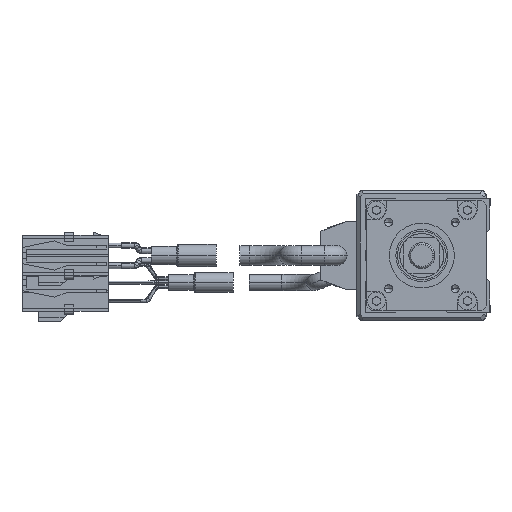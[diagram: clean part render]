
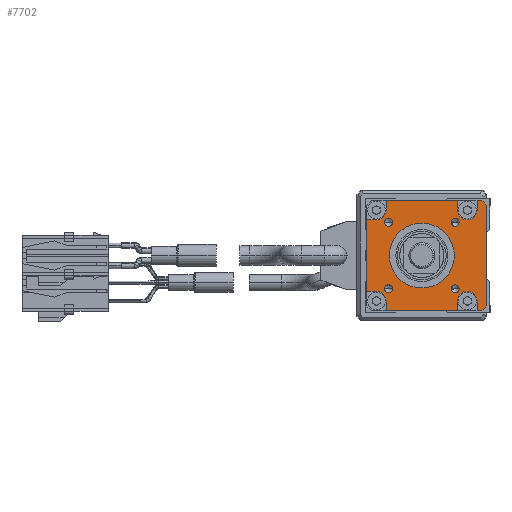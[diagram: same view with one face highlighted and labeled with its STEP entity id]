
A CAD part, left-side view. The second image highlights one B-rep face of the part: STEP entity #7702.
In plain terms, the highlighted planar face has unit normal (-1, 0, 0).
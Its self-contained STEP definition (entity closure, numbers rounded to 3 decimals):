
#1290=DIRECTION('',(0.,1.,0.));
#1291=VECTOR('',#1290,22.);
#1292=CARTESIAN_POINT('',(-277.5,10.,-17.));
#1293=LINE('',#1292,#1291);
#1298=DIRECTION('',(0.,1.,0.));
#1299=VECTOR('',#1298,1.5);
#1300=CARTESIAN_POINT('',(-277.5,2.5,-17.));
#1301=LINE('',#1300,#1299);
#1322=DIRECTION('',(0.,0.,1.));
#1323=VECTOR('',#1322,22.);
#1324=CARTESIAN_POINT('',(-277.5,38.,-11.));
#1325=LINE('',#1324,#1323);
#1346=DIRECTION('',(0.,-1.,0.));
#1347=VECTOR('',#1346,1.5);
#1348=CARTESIAN_POINT('',(-277.5,4.,17.));
#1349=LINE('',#1348,#1347);
#1350=DIRECTION('',(0.,-1.,0.));
#1351=VECTOR('',#1350,22.);
#1352=CARTESIAN_POINT('',(-277.5,32.,17.));
#1353=LINE('',#1352,#1351);
#1366=DIRECTION('',(0.,0.,-1.));
#1367=VECTOR('',#1366,31.);
#1368=CARTESIAN_POINT('',(-277.5,1.,15.5));
#1369=LINE('',#1368,#1367);
#1914=DIRECTION('',(0.,0.707,-0.707));
#1915=VECTOR('',#1914,2.121);
#1916=CARTESIAN_POINT('',(-277.5,1.,-15.5));
#1917=LINE('',#1916,#1915);
#1918=CARTESIAN_POINT('',(-277.5,7.,-14.));
#1919=DIRECTION('',(-1.,0.,0.));
#1920=DIRECTION('',(0.,-1.,0.));
#1921=AXIS2_PLACEMENT_3D('',#1918,#1919,#1920);
#1923=CARTESIAN_POINT('',(-277.5,35.,-14.));
#1924=DIRECTION('',(-1.,0.,0.));
#1925=DIRECTION('',(0.,-1.,0.));
#1926=AXIS2_PLACEMENT_3D('',#1923,#1924,#1925);
#1928=CARTESIAN_POINT('',(-277.5,35.,14.));
#1929=DIRECTION('',(-1.,0.,0.));
#1930=DIRECTION('',(0.,0.,-1.));
#1931=AXIS2_PLACEMENT_3D('',#1928,#1929,#1930);
#1933=CARTESIAN_POINT('',(-277.5,7.,14.));
#1934=DIRECTION('',(-1.,0.,0.));
#1935=DIRECTION('',(0.,1.,0.));
#1936=AXIS2_PLACEMENT_3D('',#1933,#1934,#1935);
#1938=DIRECTION('',(0.,-0.707,-0.707));
#1939=VECTOR('',#1938,2.121);
#1940=CARTESIAN_POINT('',(-277.5,2.5,17.));
#1941=LINE('',#1940,#1939);
#1942=CARTESIAN_POINT('',(-277.5,31.253,-10.253));
#1943=DIRECTION('',(-1.,0.,0.));
#1944=DIRECTION('',(0.,1.,0.));
#1945=AXIS2_PLACEMENT_3D('',#1942,#1943,#1944);
#1947=CARTESIAN_POINT('',(-277.5,31.253,-10.253));
#1948=DIRECTION('',(-1.,0.,0.));
#1949=DIRECTION('',(0.,-1.,0.));
#1950=AXIS2_PLACEMENT_3D('',#1947,#1948,#1949);
#1952=CARTESIAN_POINT('',(-277.5,10.747,-10.253));
#1953=DIRECTION('',(-1.,0.,0.));
#1954=DIRECTION('',(0.,1.,0.));
#1955=AXIS2_PLACEMENT_3D('',#1952,#1953,#1954);
#1957=CARTESIAN_POINT('',(-277.5,10.747,-10.253));
#1958=DIRECTION('',(-1.,0.,0.));
#1959=DIRECTION('',(0.,-1.,0.));
#1960=AXIS2_PLACEMENT_3D('',#1957,#1958,#1959);
#1962=CARTESIAN_POINT('',(-277.5,10.747,10.253));
#1963=DIRECTION('',(-1.,0.,0.));
#1964=DIRECTION('',(0.,1.,0.));
#1965=AXIS2_PLACEMENT_3D('',#1962,#1963,#1964);
#1967=CARTESIAN_POINT('',(-277.5,10.747,10.253));
#1968=DIRECTION('',(-1.,0.,0.));
#1969=DIRECTION('',(0.,-1.,0.));
#1970=AXIS2_PLACEMENT_3D('',#1967,#1968,#1969);
#1972=CARTESIAN_POINT('',(-277.5,31.253,10.253));
#1973=DIRECTION('',(-1.,0.,0.));
#1974=DIRECTION('',(0.,1.,0.));
#1975=AXIS2_PLACEMENT_3D('',#1972,#1973,#1974);
#1977=CARTESIAN_POINT('',(-277.5,31.253,10.253));
#1978=DIRECTION('',(-1.,0.,0.));
#1979=DIRECTION('',(0.,-1.,0.));
#1980=AXIS2_PLACEMENT_3D('',#1977,#1978,#1979);
#1982=CARTESIAN_POINT('',(-277.5,21.,0.));
#1983=DIRECTION('',(-1.,0.,0.));
#1984=DIRECTION('',(0.,-1.,0.));
#1985=AXIS2_PLACEMENT_3D('',#1982,#1983,#1984);
#1987=CARTESIAN_POINT('',(-277.5,21.,0.));
#1988=DIRECTION('',(-1.,0.,0.));
#1989=DIRECTION('',(0.,1.,0.));
#1990=AXIS2_PLACEMENT_3D('',#1987,#1988,#1989);
#1992=DIRECTION('',(0.,0.,-1.));
#1993=VECTOR('',#1992,3.);
#1994=CARTESIAN_POINT('',(-277.5,4.,-14.));
#1995=LINE('',#1994,#1993);
#2019=DIRECTION('',(0.,0.,1.));
#2020=VECTOR('',#2019,3.);
#2021=CARTESIAN_POINT('',(-277.5,10.,-17.));
#2022=LINE('',#2021,#2020);
#2129=DIRECTION('',(0.,0.,-1.));
#2130=VECTOR('',#2129,3.);
#2131=CARTESIAN_POINT('',(-277.5,32.,-14.));
#2132=LINE('',#2131,#2130);
#2160=DIRECTION('',(0.,-1.,0.));
#2161=VECTOR('',#2160,3.);
#2162=CARTESIAN_POINT('',(-277.5,38.,-11.));
#2163=LINE('',#2162,#2161);
#2270=DIRECTION('',(0.,1.,0.));
#2271=VECTOR('',#2270,3.);
#2272=CARTESIAN_POINT('',(-277.5,35.,11.));
#2273=LINE('',#2272,#2271);
#2305=DIRECTION('',(0.,0.,-1.));
#2306=VECTOR('',#2305,3.);
#2307=CARTESIAN_POINT('',(-277.5,32.,17.));
#2308=LINE('',#2307,#2306);
#2415=DIRECTION('',(0.,0.,1.));
#2416=VECTOR('',#2415,3.);
#2417=CARTESIAN_POINT('',(-277.5,10.,14.));
#2418=LINE('',#2417,#2416);
#2446=DIRECTION('',(0.,0.,-1.));
#2447=VECTOR('',#2446,3.);
#2448=CARTESIAN_POINT('',(-277.5,4.,17.));
#2449=LINE('',#2448,#2447);
#4178=CARTESIAN_POINT('',(-277.5,11.,0.));
#4179=CARTESIAN_POINT('',(-277.5,31.,0.));
#4180=VERTEX_POINT('',#4178);
#4181=VERTEX_POINT('',#4179);
#4182=CARTESIAN_POINT('',(-277.5,1.,-15.5));
#4183=CARTESIAN_POINT('',(-277.5,2.5,-17.));
#4184=VERTEX_POINT('',#4182);
#4185=VERTEX_POINT('',#4183);
#4186=CARTESIAN_POINT('',(-277.5,1.,15.5));
#4187=VERTEX_POINT('',#4186);
#4188=CARTESIAN_POINT('',(-277.5,2.5,17.));
#4189=VERTEX_POINT('',#4188);
#4190=CARTESIAN_POINT('',(-277.5,4.,17.));
#4191=VERTEX_POINT('',#4190);
#4192=CARTESIAN_POINT('',(-277.5,4.,14.));
#4193=VERTEX_POINT('',#4192);
#4194=CARTESIAN_POINT('',(-277.5,10.,14.));
#4195=VERTEX_POINT('',#4194);
#4196=CARTESIAN_POINT('',(-277.5,10.,17.));
#4197=VERTEX_POINT('',#4196);
#4198=CARTESIAN_POINT('',(-277.5,32.,17.));
#4199=VERTEX_POINT('',#4198);
#4200=CARTESIAN_POINT('',(-277.5,32.,14.));
#4201=VERTEX_POINT('',#4200);
#4202=CARTESIAN_POINT('',(-277.5,35.,11.));
#4203=VERTEX_POINT('',#4202);
#4204=CARTESIAN_POINT('',(-277.5,38.,11.));
#4205=VERTEX_POINT('',#4204);
#4206=CARTESIAN_POINT('',(-277.5,38.,-11.));
#4207=VERTEX_POINT('',#4206);
#4208=CARTESIAN_POINT('',(-277.5,35.,-11.));
#4209=VERTEX_POINT('',#4208);
#4210=CARTESIAN_POINT('',(-277.5,32.,-14.));
#4211=VERTEX_POINT('',#4210);
#4212=CARTESIAN_POINT('',(-277.5,32.,-17.));
#4213=VERTEX_POINT('',#4212);
#4214=CARTESIAN_POINT('',(-277.5,10.,-17.));
#4215=VERTEX_POINT('',#4214);
#4216=CARTESIAN_POINT('',(-277.5,10.,-14.));
#4217=VERTEX_POINT('',#4216);
#4218=CARTESIAN_POINT('',(-277.5,4.,-14.));
#4219=VERTEX_POINT('',#4218);
#4220=CARTESIAN_POINT('',(-277.5,4.,-17.));
#4221=VERTEX_POINT('',#4220);
#4222=CARTESIAN_POINT('',(-277.5,32.503,-10.253));
#4223=CARTESIAN_POINT('',(-277.5,30.003,-10.253));
#4224=VERTEX_POINT('',#4222);
#4225=VERTEX_POINT('',#4223);
#4226=CARTESIAN_POINT('',(-277.5,11.997,-10.253));
#4227=CARTESIAN_POINT('',(-277.5,9.497,-10.253));
#4228=VERTEX_POINT('',#4226);
#4229=VERTEX_POINT('',#4227);
#4230=CARTESIAN_POINT('',(-277.5,11.997,10.253));
#4231=CARTESIAN_POINT('',(-277.5,9.497,10.253));
#4232=VERTEX_POINT('',#4230);
#4233=VERTEX_POINT('',#4231);
#4234=CARTESIAN_POINT('',(-277.5,32.503,10.253));
#4235=CARTESIAN_POINT('',(-277.5,30.003,10.253));
#4236=VERTEX_POINT('',#4234);
#4237=VERTEX_POINT('',#4235);
#7633=CARTESIAN_POINT('',(-277.5,19.5,0.));
#7634=DIRECTION('',(1.,0.,0.));
#7635=DIRECTION('',(0.,0.,-1.));
#7636=AXIS2_PLACEMENT_3D('',#7633,#7634,#7635);
#7637=PLANE('',#7636);
#7638=ORIENTED_EDGE('',*,*,#6630,.T.);
#7639=ORIENTED_EDGE('',*,*,#6659,.T.);
#7641=ORIENTED_EDGE('',*,*,#7640,.F.);
#7643=ORIENTED_EDGE('',*,*,#7642,.T.);
#7645=ORIENTED_EDGE('',*,*,#7644,.F.);
#7646=ORIENTED_EDGE('',*,*,#6651,.T.);
#7648=ORIENTED_EDGE('',*,*,#7647,.F.);
#7650=ORIENTED_EDGE('',*,*,#7649,.T.);
#7652=ORIENTED_EDGE('',*,*,#7651,.F.);
#7653=ORIENTED_EDGE('',*,*,#6693,.T.);
#7655=ORIENTED_EDGE('',*,*,#7654,.F.);
#7657=ORIENTED_EDGE('',*,*,#7656,.T.);
#7659=ORIENTED_EDGE('',*,*,#7658,.F.);
#7660=ORIENTED_EDGE('',*,*,#6735,.T.);
#7662=ORIENTED_EDGE('',*,*,#7661,.F.);
#7664=ORIENTED_EDGE('',*,*,#7663,.T.);
#7666=ORIENTED_EDGE('',*,*,#7665,.F.);
#7667=ORIENTED_EDGE('',*,*,#6727,.T.);
#7668=ORIENTED_EDGE('',*,*,#6753,.T.);
#7669=ORIENTED_EDGE('',*,*,#6768,.T.);
#7670=EDGE_LOOP('',(#7638,#7639,#7641,#7643,#7645,#7646,#7648,#7650,#7652,#7653,
#7655,#7657,#7659,#7660,#7662,#7664,#7666,#7667,#7668,#7669));
#7671=FACE_OUTER_BOUND('',#7670,.F.);
#7673=ORIENTED_EDGE('',*,*,#7672,.T.);
#7675=ORIENTED_EDGE('',*,*,#7674,.T.);
#7676=EDGE_LOOP('',(#7673,#7675));
#7677=FACE_BOUND('',#7676,.F.);
#7679=ORIENTED_EDGE('',*,*,#7678,.T.);
#7681=ORIENTED_EDGE('',*,*,#7680,.T.);
#7682=EDGE_LOOP('',(#7679,#7681));
#7683=FACE_BOUND('',#7682,.F.);
#7685=ORIENTED_EDGE('',*,*,#7684,.T.);
#7687=ORIENTED_EDGE('',*,*,#7686,.T.);
#7688=EDGE_LOOP('',(#7685,#7687));
#7689=FACE_BOUND('',#7688,.F.);
#7691=ORIENTED_EDGE('',*,*,#7690,.T.);
#7693=ORIENTED_EDGE('',*,*,#7692,.T.);
#7694=EDGE_LOOP('',(#7691,#7693));
#7695=FACE_BOUND('',#7694,.F.);
#7697=ORIENTED_EDGE('',*,*,#7696,.T.);
#7699=ORIENTED_EDGE('',*,*,#7698,.T.);
#7700=EDGE_LOOP('',(#7697,#7699));
#7701=FACE_BOUND('',#7700,.F.);
#7702=ADVANCED_FACE('',(#7671,#7677,#7683,#7689,#7695,#7701),#7637,.F.);
#1922=CIRCLE('',#1921,3.);
#1927=CIRCLE('',#1926,3.);
#1932=CIRCLE('',#1931,3.);
#1937=CIRCLE('',#1936,3.);
#1946=CIRCLE('',#1945,1.25);
#1951=CIRCLE('',#1950,1.25);
#1956=CIRCLE('',#1955,1.25);
#1961=CIRCLE('',#1960,1.25);
#1966=CIRCLE('',#1965,1.25);
#1971=CIRCLE('',#1970,1.25);
#1976=CIRCLE('',#1975,1.25);
#1981=CIRCLE('',#1980,1.25);
#1986=CIRCLE('',#1985,10.);
#1991=CIRCLE('',#1990,10.);
#6630=EDGE_CURVE('',#4184,#4185,#1917,.T.);
#6651=EDGE_CURVE('',#4215,#4213,#1293,.T.);
#6659=EDGE_CURVE('',#4185,#4221,#1301,.T.);
#6693=EDGE_CURVE('',#4207,#4205,#1325,.T.);
#6727=EDGE_CURVE('',#4191,#4189,#1349,.T.);
#6735=EDGE_CURVE('',#4199,#4197,#1353,.T.);
#6753=EDGE_CURVE('',#4189,#4187,#1941,.T.);
#6768=EDGE_CURVE('',#4187,#4184,#1369,.T.);
#7640=EDGE_CURVE('',#4219,#4221,#1995,.T.);
#7642=EDGE_CURVE('',#4219,#4217,#1922,.T.);
#7644=EDGE_CURVE('',#4215,#4217,#2022,.T.);
#7647=EDGE_CURVE('',#4211,#4213,#2132,.T.);
#7649=EDGE_CURVE('',#4211,#4209,#1927,.T.);
#7651=EDGE_CURVE('',#4207,#4209,#2163,.T.);
#7654=EDGE_CURVE('',#4203,#4205,#2273,.T.);
#7656=EDGE_CURVE('',#4203,#4201,#1932,.T.);
#7658=EDGE_CURVE('',#4199,#4201,#2308,.T.);
#7661=EDGE_CURVE('',#4195,#4197,#2418,.T.);
#7663=EDGE_CURVE('',#4195,#4193,#1937,.T.);
#7665=EDGE_CURVE('',#4191,#4193,#2449,.T.);
#7672=EDGE_CURVE('',#4224,#4225,#1946,.T.);
#7674=EDGE_CURVE('',#4225,#4224,#1951,.T.);
#7678=EDGE_CURVE('',#4228,#4229,#1956,.T.);
#7680=EDGE_CURVE('',#4229,#4228,#1961,.T.);
#7684=EDGE_CURVE('',#4232,#4233,#1966,.T.);
#7686=EDGE_CURVE('',#4233,#4232,#1971,.T.);
#7690=EDGE_CURVE('',#4236,#4237,#1976,.T.);
#7692=EDGE_CURVE('',#4237,#4236,#1981,.T.);
#7696=EDGE_CURVE('',#4180,#4181,#1986,.T.);
#7698=EDGE_CURVE('',#4181,#4180,#1991,.T.);
